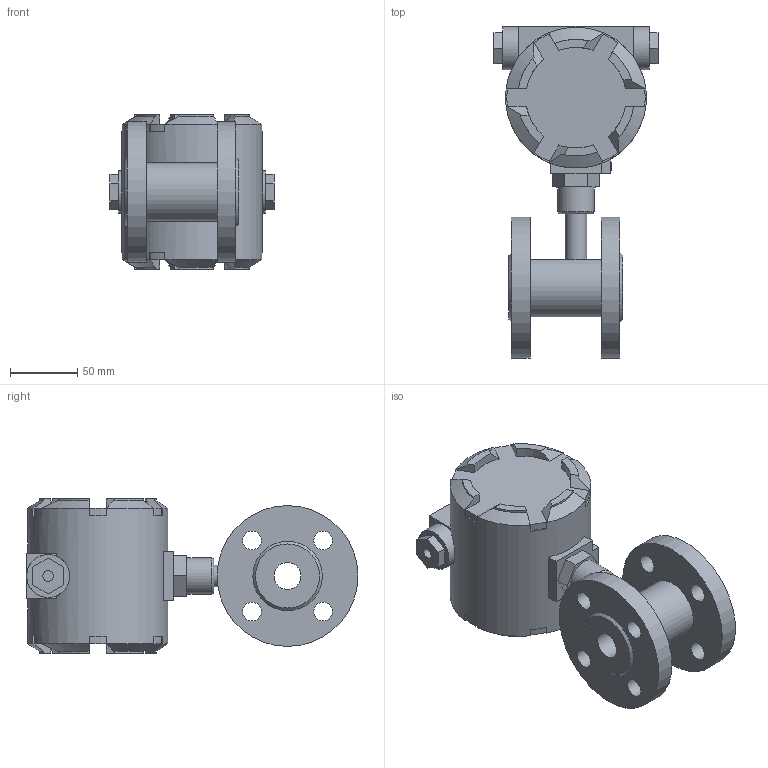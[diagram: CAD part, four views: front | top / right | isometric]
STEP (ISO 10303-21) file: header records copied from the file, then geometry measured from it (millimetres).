
FILE_DESCRIPTION( (''), '2;1');
FILE_NAME( 'QTKC_DN20_flange_Ex.step', '2025-02-07T11:06:52+08:00', (''), (''), '', '', '');
FILE_SCHEMA (('AUTOMOTIVE_DESIGN { 1 0 10303 214 3 1 1 1 }'));
Length unit declared in the file: millimetre
Products named in the file (1): QTKC DN20_flange_Ex
Bounding box: 122.4 x 247.5 x 115 mm (x, y, z)
Volume: 1232322.7 mm3; surface area: 134828.1 mm2
Topology: 4 solids, 4 shells, 1333 faces, 3658 edges, 2435 vertices
Faces by surface type: plane 726, extrusion 504, cylinder 77, cone 17, torus 6, bspline 3
Full cylindrical faces by diameter (mm): 3.3 x1, 8 x2, 14 x8, 16 x1, 16.5 x1, 18.5 x1, 20 x3, 27 x1, 32 x2, 68 x1, 105 x3
Entity records: 45348 total; most frequent: CARTESIAN_POINT 13502, ORIENTED_EDGE 7214, DIRECTION 4913, EDGE_CURVE 3607, VECTOR 2829, VERTEX_POINT 2418, LINE 2325, B_SPLINE_CURVE_WITH_KNOTS 1571
